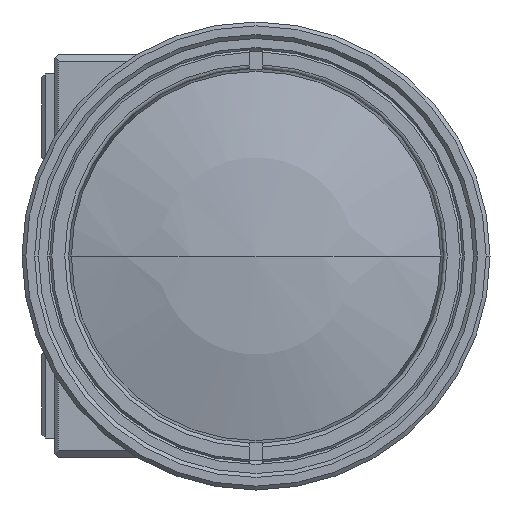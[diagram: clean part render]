
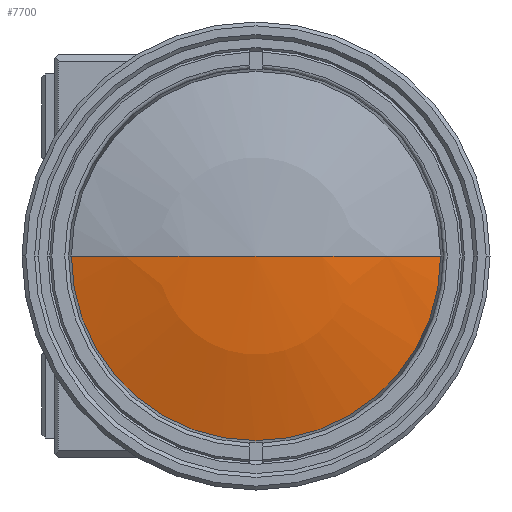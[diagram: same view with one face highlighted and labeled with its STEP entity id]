
A CAD part, left-side view. The second image highlights one B-rep face of the part: STEP entity #7700.
In plain terms, the highlighted spherical face has radius 48.6 mm.
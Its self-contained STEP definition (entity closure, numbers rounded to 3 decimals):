
#40=CARTESIAN_POINT('',(-7.97,0.,0.));
#41=DIRECTION('',(0.,0.,1.));
#42=DIRECTION('',(-0.951,0.309,0.));
#43=AXIS2_PLACEMENT_3D('',#40,#41,#42);
#45=CARTESIAN_POINT('',(-7.97,0.,0.));
#46=DIRECTION('',(0.,0.,-1.));
#47=DIRECTION('',(-0.951,-0.309,0.));
#48=AXIS2_PLACEMENT_3D('',#45,#46,#47);
#50=CARTESIAN_POINT('',(-54.198,0.,0.));
#51=DIRECTION('',(-1.,0.,0.));
#52=DIRECTION('',(0.,1.,0.));
#53=AXIS2_PLACEMENT_3D('',#50,#51,#52);
#6504=CARTESIAN_POINT('',(-54.198,15.,0.));
#6505=CARTESIAN_POINT('',(-56.57,0.,0.));
#6506=VERTEX_POINT('',#6504);
#6507=VERTEX_POINT('',#6505);
#6508=CARTESIAN_POINT('',(-54.198,-15.,0.));
#6509=VERTEX_POINT('',#6508);
#7688=CARTESIAN_POINT('',(-7.97,0.,0.));
#7689=DIRECTION('',(1.,0.,0.));
#7690=DIRECTION('',(0.,-1.,0.));
#7691=AXIS2_PLACEMENT_3D('',#7688,#7689,#7690);
#7692=SPHERICAL_SURFACE('',#7691,48.6);
#7694=ORIENTED_EDGE('',*,*,#7693,.T.);
#7696=ORIENTED_EDGE('',*,*,#7695,.F.);
#7697=ORIENTED_EDGE('',*,*,#7682,.F.);
#7698=EDGE_LOOP('',(#7694,#7696,#7697));
#7699=FACE_OUTER_BOUND('',#7698,.F.);
#44=CIRCLE('',#43,48.6);
#49=CIRCLE('',#48,48.6);
#54=CIRCLE('',#53,15.);
#7682=EDGE_CURVE('',#6506,#6509,#54,.T.);
#7693=EDGE_CURVE('',#6506,#6507,#44,.T.);
#7695=EDGE_CURVE('',#6509,#6507,#49,.T.);
#7700=ADVANCED_FACE('',(#7699),#7692,.T.);
